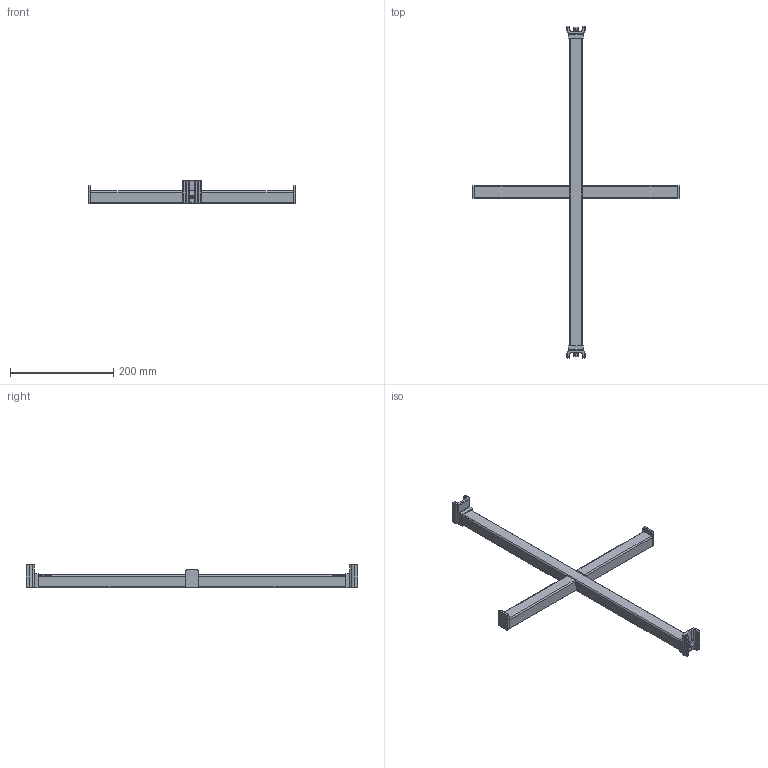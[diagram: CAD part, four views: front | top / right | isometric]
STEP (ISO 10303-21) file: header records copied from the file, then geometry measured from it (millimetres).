
FILE_DESCRIPTION (( 'STEP AP214' ), '1' );
FILE_NAME ('1000256.STEP', '2025-10-01T13:37:59', ( '' ), ( '' ), 'SwSTEP 2.0', 'SolidWorks 2025', '' );
FILE_SCHEMA (( 'AUTOMOTIVE_DESIGN' ));
Length unit declared in the file: millimetre
Products named in the file (1): 1000256
Bounding box: 400 x 643 x 46 mm (x, y, z)
Volume: 688789.6 mm3; surface area: 125614.9 mm2
Topology: 8 solids, 8 shells, 432 faces, 1181 edges, 765 vertices
Faces by surface type: plane 253, cylinder 157, bspline 22
Entity records: 14332 total; most frequent: CARTESIAN_POINT 3696, ORIENTED_EDGE 2362, DIRECTION 1965, EDGE_CURVE 1181, VECTOR 769, LINE 769, VERTEX_POINT 765, AXIS2_PLACEMENT_3D 598
